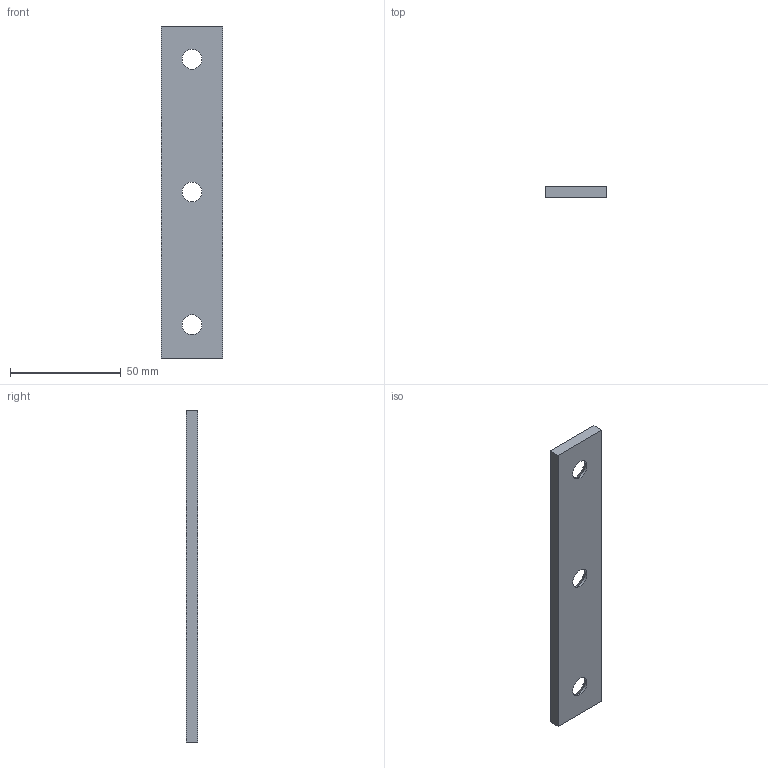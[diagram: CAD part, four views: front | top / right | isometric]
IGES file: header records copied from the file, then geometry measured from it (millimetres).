
Start section: Data from Parasolid IGES Translator 20.0.26, Copyright(c) 2006 Siemens P LM Software. All Rights Reserved.
Global section: file name: P605-01-028-150.igs; native system: By Siemens PLM Incorporated; preprocessor: XPlus GENERIC/IGES 20.0.26; author: Noname; organization: Noname; date: 20190705.145731; units: millimetre
Bounding box: 28 x 5 x 150 mm (x, y, z)
Surface area: 10086.1 mm2 (no closed solid volume)
Topology: 0 solids, 0 shells, 12 faces, 54 edges, 49 vertices
Faces by surface type: extrusion 6, revolution 6
